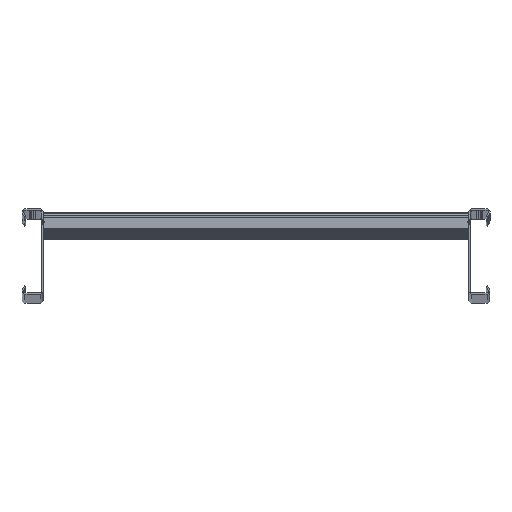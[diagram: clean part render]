
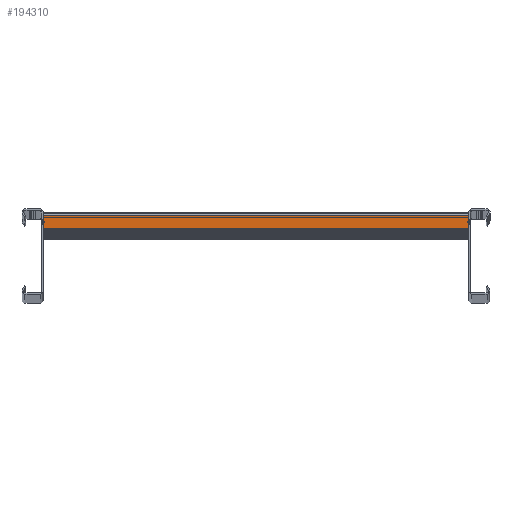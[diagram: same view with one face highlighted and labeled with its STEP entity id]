
A CAD part, top view. The second image highlights one B-rep face of the part: STEP entity #194310.
In plain terms, the highlighted planar face has unit normal (0, 0, 1) as drawn and (1, 0, 0) by its records, which use the part's own axes.
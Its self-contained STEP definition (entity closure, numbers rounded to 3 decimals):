
#190800=CARTESIAN_POINT('',(39.75,881.,100.));
#190810=VERTEX_POINT('',#190800);
#190840=CARTESIAN_POINT('',(39.75,0.,100.));
#190850=DIRECTION('',(0.,-1.,0.));
#190860=VECTOR('',#190850,1.);
#190870=LINE('',#190840,#190860);
#190880=CARTESIAN_POINT('',(39.75,897.,100.));
#190890=VERTEX_POINT('',#190880);
#190900=EDGE_CURVE('',#190890,#190810,#190870,.T.);
#194010=CARTESIAN_POINT('',(39.75,900.,0.));
#194020=DIRECTION('',(1.,0.,0.));
#194030=DIRECTION('',(0.,-1.,0.));
#194040=AXIS2_PLACEMENT_3D('',#194010,#194020,#194030);
#194050=PLANE('',#194040);
#194060=ORIENTED_EDGE('',*,*,#190900,.F.);
#194070=CARTESIAN_POINT('',(39.75,881.,0.));
#194080=DIRECTION('',(0.,0.,1.));
#194090=VECTOR('',#194080,1.);
#194100=LINE('',#194070,#194090);
#194110=CARTESIAN_POINT('',(39.75,881.,600.));
#194120=VERTEX_POINT('',#194110);
#194130=EDGE_CURVE('',#190810,#194120,#194100,.T.);
#194140=ORIENTED_EDGE('',*,*,#194130,.F.);
#194150=CARTESIAN_POINT('',(39.75,0.,600.));
#194160=DIRECTION('',(0.,1.,0.));
#194170=VECTOR('',#194160,1.);
#194180=LINE('',#194150,#194170);
#194190=CARTESIAN_POINT('',(39.75,897.,600.));
#194200=VERTEX_POINT('',#194190);
#194210=EDGE_CURVE('',#194120,#194200,#194180,.T.);
#194220=ORIENTED_EDGE('',*,*,#194210,.F.);
#194230=CARTESIAN_POINT('',(39.75,897.,0.));
#194240=DIRECTION('',(0.,0.,1.));
#194250=VECTOR('',#194240,1.);
#194260=LINE('',#194230,#194250);
#194270=EDGE_CURVE('',#190890,#194200,#194260,.T.);
#194280=ORIENTED_EDGE('',*,*,#194270,.T.);
#194290=EDGE_LOOP('',(#194280,#194220,#194140,#194060));
#194300=FACE_OUTER_BOUND('',#194290,.T.);
#194310=ADVANCED_FACE('',(#194300),#194050,.T.);
